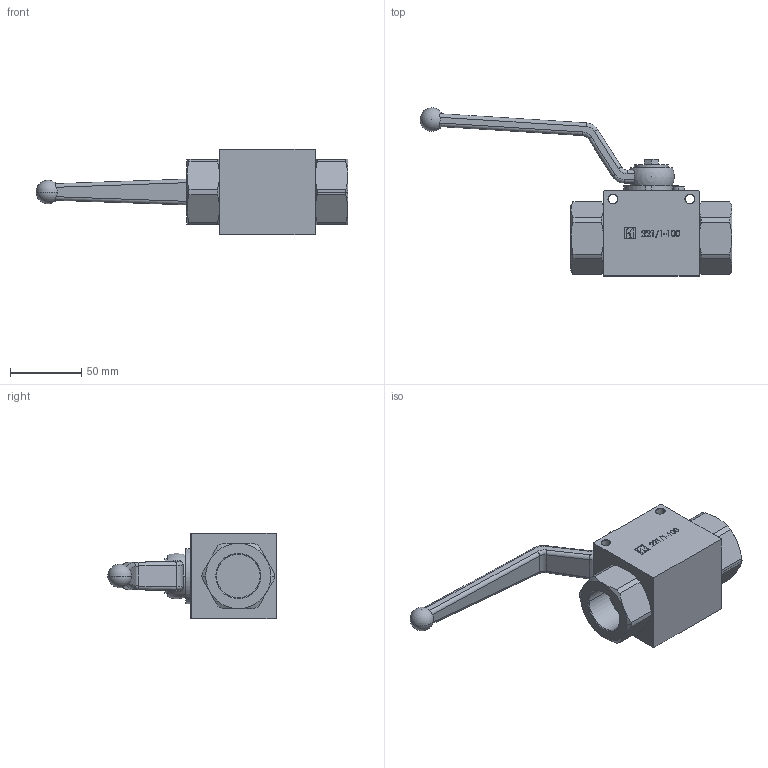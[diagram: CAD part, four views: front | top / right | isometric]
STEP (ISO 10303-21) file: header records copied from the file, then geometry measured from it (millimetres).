
FILE_DESCRIPTION (( 'STEP AP214' ), '1' );
FILE_NAME ('221-1-100.STEP', '2015-05-15T13:12:50', ( '' ), ( '' ), 'SwSTEP 2.0', 'SolidWorks 2014', '' );
FILE_SCHEMA (( 'AUTOMOTIVE_DESIGN' ));
Length unit declared in the file: millimetre
Products named in the file (1): 221-1-100
Bounding box: 218.74 x 117.99 x 60 mm (x, y, z)
Surface area: 47361.5 mm2 (no closed solid volume)
Topology: 0 solids, 5 shells, 200 faces, 611 edges, 411 vertices
Faces by surface type: plane 87, cylinder 52, bspline 34, cone 20, sphere 5, torus 2
Entity records: 11605 total; most frequent: CARTESIAN_POINT 4280, ORIENTED_EDGE 1057, DIRECTION 961, EDGE_CURVE 598, VERTEX_POINT 403, LINE 333, VECTOR 333, AXIS2_PLACEMENT_3D 314
